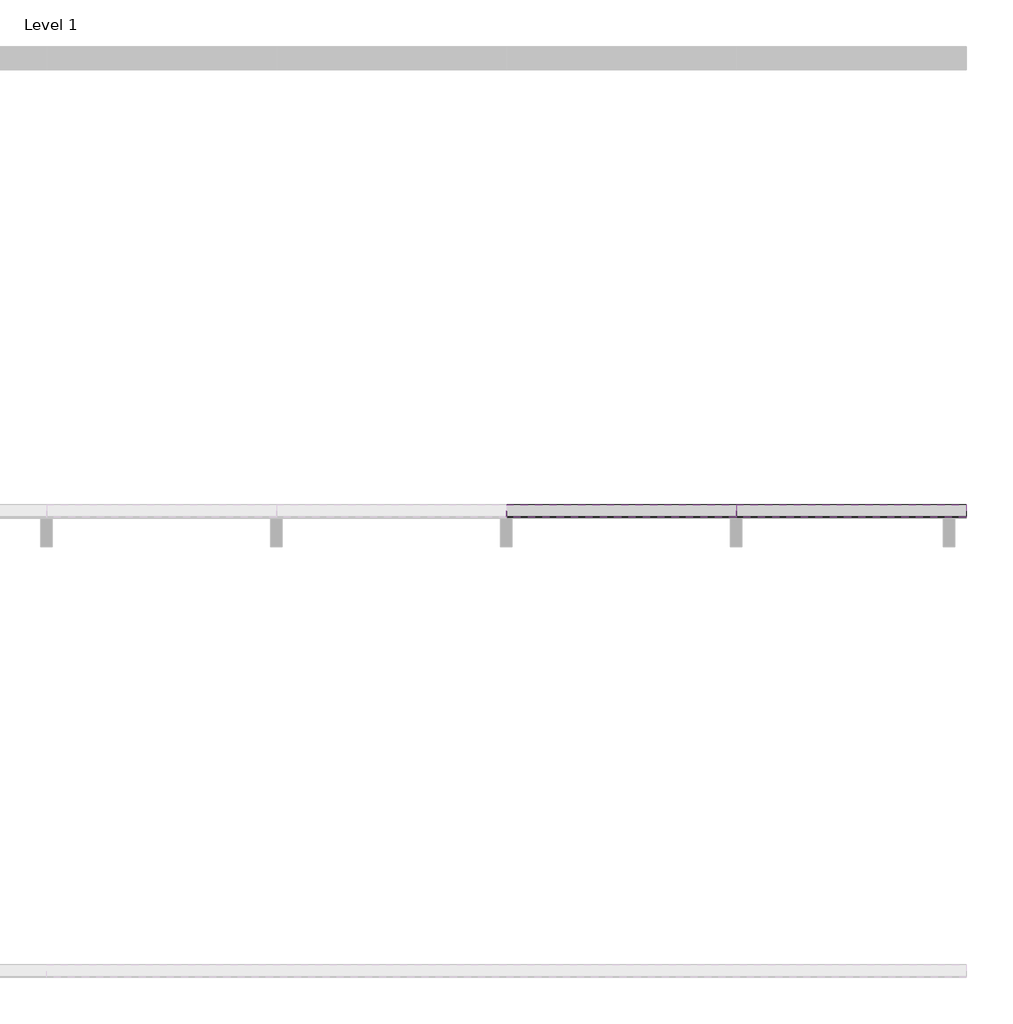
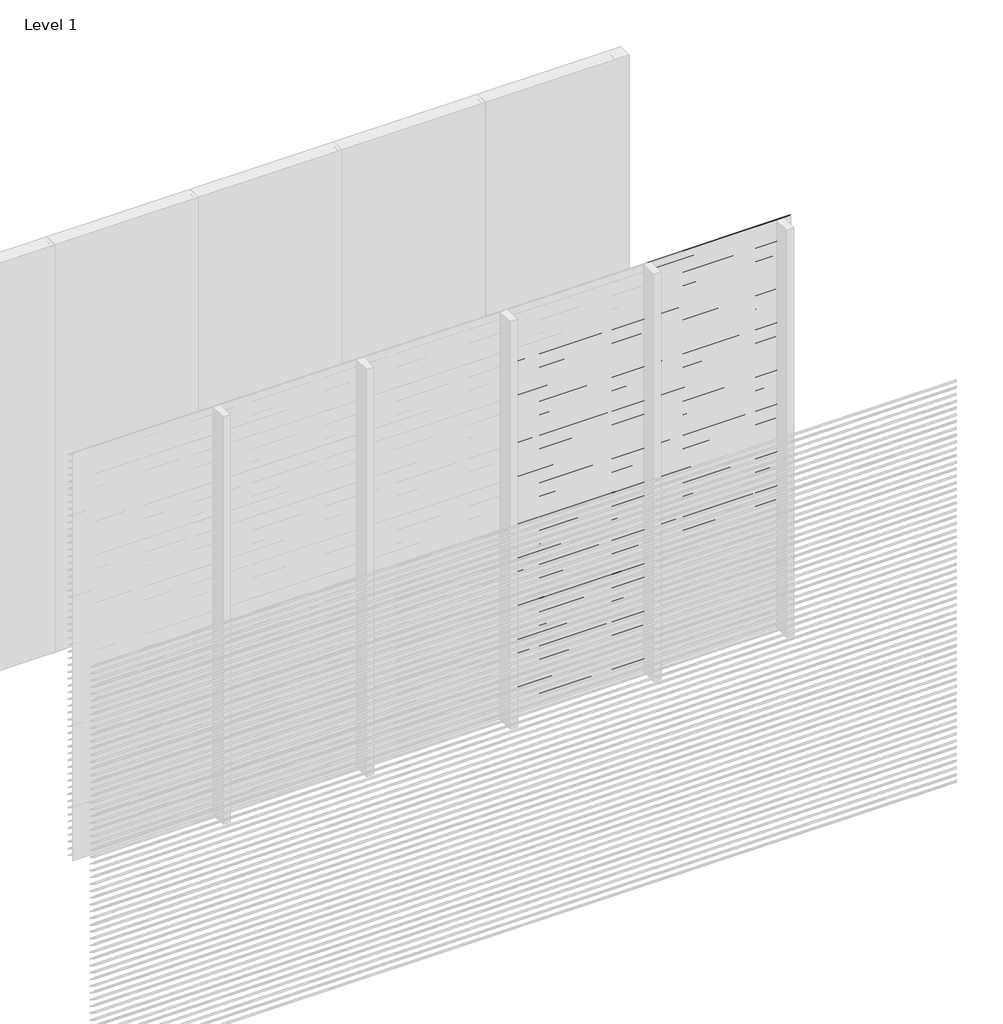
# One storey, part 5 of 18: 95 proxies.
"""IFC4 building model written with IfcOpenShell, lengths in millimetres."""

from ifc_helpers import new_model, si_unit, frame, origin, place, context, project, spatial, polyline, outline, extrude, element, save

model = new_model("IFC4")

# Units and contexts
model_context = context("Model", 3, world=origin())
ifc_project = project(units=[si_unit("LENGTHUNIT", "METRE", prefix="MILLI")], contexts=[model_context])

# Site, building, storey
site = spatial("IfcSite", under=ifc_project)
building = spatial("IfcBuilding", under=site)
storey = spatial("IfcBuildingStorey", under=building, Name="Level 1", Elevation=0.0)

# Proxies
placement = place(None, origin())
element("IfcBuildingElementProxy", 1, Name="Wall Sweeps", at=placement, inside=storey, context=model_context, shape_type="SweptSolid", body=[
    extrude(outline(polyline([(-17995.0, 3000.0), (-17995.0, 2991.0744429), (-17943.0, 2956.0), (-17943.0, 2950.0), (-17997.0, 2986.4234599), (-17997.0, 3000.0), (-17995.0, 3000.0)])), frame((4999.9999998, 0.0, 0.0), z_axis=(1.0, 0.0, 0.0), x_axis=(0.0, 1.0, 0.0)), (0.0, 0.0, 1.0), 1000.0000002),
])
element("IfcBuildingElementProxy", 2, Name="Wall Sweeps", at=placement, inside=storey, context=model_context, shape_type="SweptSolid", body=[
    extrude(outline(polyline([(-17995.0, 2950.0), (-17995.0, 2941.0744429), (-17943.0, 2906.0), (-17943.0, 2900.0), (-17997.0, 2936.4234599), (-17997.0, 2950.0), (-17995.0, 2950.0)])), frame((4999.9999998, 0.0, 0.0), z_axis=(1.0, 0.0, 0.0), x_axis=(0.0, 1.0, 0.0)), (0.0, 0.0, 1.0), 1000.0000002),
])
element("IfcBuildingElementProxy", 3, Name="Wall Sweeps", at=placement, inside=storey, context=model_context, shape_type="SweptSolid", body=[
    extrude(outline(polyline([(-17995.0, 2900.0), (-17995.0, 2891.0744429), (-17943.0, 2856.0), (-17943.0, 2850.0), (-17997.0, 2886.4234599), (-17997.0, 2900.0), (-17995.0, 2900.0)])), frame((4999.9999998, 0.0, 0.0), z_axis=(1.0, 0.0, 0.0), x_axis=(0.0, 1.0, 0.0)), (0.0, 0.0, 1.0), 1000.0000002),
])
element("IfcBuildingElementProxy", 4, Name="Wall Sweeps", at=placement, inside=storey, context=model_context, shape_type="SweptSolid", body=[
    extrude(outline(polyline([(-17995.0, 2850.0), (-17995.0, 2841.0744429), (-17943.0, 2806.0), (-17943.0, 2800.0), (-17997.0, 2836.4234599), (-17997.0, 2850.0), (-17995.0, 2850.0)])), frame((4999.9999998, 0.0, 0.0), z_axis=(1.0, 0.0, 0.0), x_axis=(0.0, 1.0, 0.0)), (0.0, 0.0, 1.0), 1000.0000002),
])
element("IfcBuildingElementProxy", 5, Name="Wall Sweeps", at=placement, inside=storey, context=model_context, shape_type="SweptSolid", body=[
    extrude(outline(polyline([(-17995.0, 2800.0), (-17995.0, 2791.0744429), (-17943.0, 2756.0), (-17943.0, 2750.0), (-17997.0, 2786.4234599), (-17997.0, 2800.0), (-17995.0, 2800.0)])), frame((4999.9999998, 0.0, 0.0), z_axis=(1.0, 0.0, 0.0), x_axis=(0.0, 1.0, 0.0)), (0.0, 0.0, 1.0), 1000.0000002),
])
element("IfcBuildingElementProxy", 6, Name="Wall Sweeps", at=placement, inside=storey, context=model_context, shape_type="SweptSolid", body=[
    extrude(outline(polyline([(-17995.0, 2750.0), (-17995.0, 2741.0744429), (-17943.0, 2706.0), (-17943.0, 2700.0), (-17997.0, 2736.4234599), (-17997.0, 2750.0), (-17995.0, 2750.0)])), frame((4999.9999998, 0.0, 0.0), z_axis=(1.0, 0.0, 0.0), x_axis=(0.0, 1.0, 0.0)), (0.0, 0.0, 1.0), 1000.0000002),
])
element("IfcBuildingElementProxy", 7, Name="Wall Sweeps", at=placement, inside=storey, context=model_context, shape_type="SweptSolid", body=[
    extrude(outline(polyline([(-17995.0, 2700.0), (-17995.0, 2691.0744429), (-17943.0, 2656.0), (-17943.0, 2650.0), (-17997.0, 2686.4234599), (-17997.0, 2700.0), (-17995.0, 2700.0)])), frame((4999.9999998, 0.0, 0.0), z_axis=(1.0, 0.0, 0.0), x_axis=(0.0, 1.0, 0.0)), (0.0, 0.0, 1.0), 1000.0000002),
])
element("IfcBuildingElementProxy", 8, Name="Wall Sweeps", at=placement, inside=storey, context=model_context, shape_type="SweptSolid", body=[
    extrude(outline(polyline([(-17995.0, 2650.0), (-17995.0, 2641.0744429), (-17943.0, 2606.0), (-17943.0, 2600.0), (-17997.0, 2636.4234599), (-17997.0, 2650.0), (-17995.0, 2650.0)])), frame((4999.9999998, 0.0, 0.0), z_axis=(1.0, 0.0, 0.0), x_axis=(0.0, 1.0, 0.0)), (0.0, 0.0, 1.0), 1000.0000002),
])
element("IfcBuildingElementProxy", 9, Name="Wall Sweeps", at=placement, inside=storey, context=model_context, shape_type="SweptSolid", body=[
    extrude(outline(polyline([(-17995.0, 2600.0), (-17995.0, 2591.0744429), (-17943.0, 2556.0), (-17943.0, 2550.0), (-17997.0, 2586.4234599), (-17997.0, 2600.0), (-17995.0, 2600.0)])), frame((4999.9999998, 0.0, 0.0), z_axis=(1.0, 0.0, 0.0), x_axis=(0.0, 1.0, 0.0)), (0.0, 0.0, 1.0), 1000.0000002),
])
element("IfcBuildingElementProxy", 10, Name="Wall Sweeps", at=placement, inside=storey, context=model_context, shape_type="SweptSolid", body=[
    extrude(outline(polyline([(-17995.0, 2550.0), (-17995.0, 2541.0744429), (-17943.0, 2506.0), (-17943.0, 2500.0), (-17997.0, 2536.4234599), (-17997.0, 2550.0), (-17995.0, 2550.0)])), frame((4999.9999998, 0.0, 0.0), z_axis=(1.0, 0.0, 0.0), x_axis=(0.0, 1.0, 0.0)), (0.0, 0.0, 1.0), 1000.0000002),
])
element("IfcBuildingElementProxy", 11, Name="Wall Sweeps", at=placement, inside=storey, context=model_context, shape_type="SweptSolid", body=[
    extrude(outline(polyline([(-17995.0, 2500.0), (-17995.0, 2491.0744429), (-17943.0, 2456.0), (-17943.0, 2450.0), (-17997.0, 2486.4234599), (-17997.0, 2500.0), (-17995.0, 2500.0)])), frame((4999.9999998, 0.0, 0.0), z_axis=(1.0, 0.0, 0.0), x_axis=(0.0, 1.0, 0.0)), (0.0, 0.0, 1.0), 1000.0000002),
])
element("IfcBuildingElementProxy", 12, Name="Wall Sweeps", at=placement, inside=storey, context=model_context, shape_type="SweptSolid", body=[
    extrude(outline(polyline([(-17995.0, 2450.0), (-17995.0, 2441.0744429), (-17943.0, 2406.0), (-17943.0, 2400.0), (-17997.0, 2436.4234599), (-17997.0, 2450.0), (-17995.0, 2450.0)])), frame((4999.9999998, 0.0, 0.0), z_axis=(1.0, 0.0, 0.0), x_axis=(0.0, 1.0, 0.0)), (0.0, 0.0, 1.0), 1000.0000002),
])
element("IfcBuildingElementProxy", 13, Name="Wall Sweeps", at=placement, inside=storey, context=model_context, shape_type="SweptSolid", body=[
    extrude(outline(polyline([(-17995.0, 2400.0), (-17995.0, 2391.0744429), (-17943.0, 2356.0), (-17943.0, 2350.0), (-17997.0, 2386.4234599), (-17997.0, 2400.0), (-17995.0, 2400.0)])), frame((4999.9999998, 0.0, 0.0), z_axis=(1.0, 0.0, 0.0), x_axis=(0.0, 1.0, 0.0)), (0.0, 0.0, 1.0), 1000.0000002),
])
element("IfcBuildingElementProxy", 14, Name="Wall Sweeps", at=placement, inside=storey, context=model_context, shape_type="SweptSolid", body=[
    extrude(outline(polyline([(-17995.0, 2350.0), (-17995.0, 2341.0744429), (-17943.0, 2306.0), (-17943.0, 2300.0), (-17997.0, 2336.4234599), (-17997.0, 2350.0), (-17995.0, 2350.0)])), frame((4999.9999998, 0.0, 0.0), z_axis=(1.0, 0.0, 0.0), x_axis=(0.0, 1.0, 0.0)), (0.0, 0.0, 1.0), 1000.0000002),
])
element("IfcBuildingElementProxy", 15, Name="Wall Sweeps", at=placement, inside=storey, context=model_context, shape_type="SweptSolid", body=[
    extrude(outline(polyline([(-17995.0, 2300.0), (-17995.0, 2291.0744429), (-17943.0, 2256.0), (-17943.0, 2250.0), (-17997.0, 2286.4234599), (-17997.0, 2300.0), (-17995.0, 2300.0)])), frame((4999.9999998, 0.0, 0.0), z_axis=(1.0, 0.0, 0.0), x_axis=(0.0, 1.0, 0.0)), (0.0, 0.0, 1.0), 1000.0000002),
])
element("IfcBuildingElementProxy", 16, Name="Wall Sweeps", at=placement, inside=storey, context=model_context, shape_type="SweptSolid", body=[
    extrude(outline(polyline([(-17995.0, 2250.0), (-17995.0, 2241.0744429), (-17943.0, 2206.0), (-17943.0, 2200.0), (-17997.0, 2236.4234599), (-17997.0, 2250.0), (-17995.0, 2250.0)])), frame((4999.9999998, 0.0, 0.0), z_axis=(1.0, 0.0, 0.0), x_axis=(0.0, 1.0, 0.0)), (0.0, 0.0, 1.0), 1000.0000002),
])
element("IfcBuildingElementProxy", 17, Name="Wall Sweeps", at=placement, inside=storey, context=model_context, shape_type="SweptSolid", body=[
    extrude(outline(polyline([(-17995.0, 2200.0), (-17995.0, 2191.0744429), (-17943.0, 2156.0), (-17943.0, 2150.0), (-17997.0, 2186.4234599), (-17997.0, 2200.0), (-17995.0, 2200.0)])), frame((4999.9999998, 0.0, 0.0), z_axis=(1.0, 0.0, 0.0), x_axis=(0.0, 1.0, 0.0)), (0.0, 0.0, 1.0), 1000.0000002),
])
element("IfcBuildingElementProxy", 18, Name="Wall Sweeps", at=placement, inside=storey, context=model_context, shape_type="SweptSolid", body=[
    extrude(outline(polyline([(-17995.0, 2150.0), (-17995.0, 2141.0744429), (-17943.0, 2106.0), (-17943.0, 2100.0), (-17997.0, 2136.4234599), (-17997.0, 2150.0), (-17995.0, 2150.0)])), frame((4999.9999998, 0.0, 0.0), z_axis=(1.0, 0.0, 0.0), x_axis=(0.0, 1.0, 0.0)), (0.0, 0.0, 1.0), 1000.0000002),
])
element("IfcBuildingElementProxy", 19, Name="Wall Sweeps", at=placement, inside=storey, context=model_context, shape_type="SweptSolid", body=[
    extrude(outline(polyline([(-17995.0, 2100.0), (-17995.0, 2091.0744429), (-17943.0, 2056.0), (-17943.0, 2050.0), (-17997.0, 2086.4234599), (-17997.0, 2100.0), (-17995.0, 2100.0)])), frame((4999.9999998, 0.0, 0.0), z_axis=(1.0, 0.0, 0.0), x_axis=(0.0, 1.0, 0.0)), (0.0, 0.0, 1.0), 1000.0000002),
])
element("IfcBuildingElementProxy", 20, Name="Wall Sweeps", at=placement, inside=storey, context=model_context, shape_type="SweptSolid", body=[
    extrude(outline(polyline([(-17995.0, 2050.0), (-17995.0, 2041.0744429), (-17943.0, 2006.0), (-17943.0, 2000.0), (-17997.0, 2036.4234599), (-17997.0, 2050.0), (-17995.0, 2050.0)])), frame((4999.9999998, 0.0, 0.0), z_axis=(1.0, 0.0, 0.0), x_axis=(0.0, 1.0, 0.0)), (0.0, 0.0, 1.0), 1000.0000002),
])
element("IfcBuildingElementProxy", 21, Name="Wall Sweeps", at=placement, inside=storey, context=model_context, shape_type="SweptSolid", body=[
    extrude(outline(polyline([(-17995.0, 2000.0), (-17995.0, 1991.0744429), (-17943.0, 1956.0), (-17943.0, 1950.0), (-17997.0, 1986.4234599), (-17997.0, 2000.0), (-17995.0, 2000.0)])), frame((4999.9999998, 0.0, 0.0), z_axis=(1.0, 0.0, 0.0), x_axis=(0.0, 1.0, 0.0)), (0.0, 0.0, 1.0), 1000.0000002),
])
element("IfcBuildingElementProxy", 22, Name="Wall Sweeps", at=placement, inside=storey, context=model_context, shape_type="SweptSolid", body=[
    extrude(outline(polyline([(-17995.0, 1950.0), (-17995.0, 1941.0744429), (-17943.0, 1906.0), (-17943.0, 1900.0), (-17997.0, 1936.4234599), (-17997.0, 1950.0), (-17995.0, 1950.0)])), frame((4999.9999998, 0.0, 0.0), z_axis=(1.0, 0.0, 0.0), x_axis=(0.0, 1.0, 0.0)), (0.0, 0.0, 1.0), 1000.0000002),
])
element("IfcBuildingElementProxy", 23, Name="Wall Sweeps", at=placement, inside=storey, context=model_context, shape_type="SweptSolid", body=[
    extrude(outline(polyline([(-17995.0, 1900.0), (-17995.0, 1891.0744429), (-17943.0, 1856.0), (-17943.0, 1850.0), (-17997.0, 1886.4234599), (-17997.0, 1900.0), (-17995.0, 1900.0)])), frame((4999.9999998, 0.0, 0.0), z_axis=(1.0, 0.0, 0.0), x_axis=(0.0, 1.0, 0.0)), (0.0, 0.0, 1.0), 1000.0000002),
])
element("IfcBuildingElementProxy", 24, Name="Wall Sweeps", at=placement, inside=storey, context=model_context, shape_type="SweptSolid", body=[
    extrude(outline(polyline([(-17995.0, 1850.0), (-17995.0, 1841.0744429), (-17943.0, 1806.0), (-17943.0, 1800.0), (-17997.0, 1836.4234599), (-17997.0, 1850.0), (-17995.0, 1850.0)])), frame((4999.9999998, 0.0, 0.0), z_axis=(1.0, 0.0, 0.0), x_axis=(0.0, 1.0, 0.0)), (0.0, 0.0, 1.0), 1000.0000002),
])
element("IfcBuildingElementProxy", 25, Name="Wall Sweeps", at=placement, inside=storey, context=model_context, shape_type="SweptSolid", body=[
    extrude(outline(polyline([(-17995.0, 1800.0), (-17995.0, 1791.0744429), (-17943.0, 1756.0), (-17943.0, 1750.0), (-17997.0, 1786.4234599), (-17997.0, 1800.0), (-17995.0, 1800.0)])), frame((4999.9999998, 0.0, 0.0), z_axis=(1.0, 0.0, 0.0), x_axis=(0.0, 1.0, 0.0)), (0.0, 0.0, 1.0), 1000.0000002),
])
element("IfcBuildingElementProxy", 26, Name="Wall Sweeps", at=placement, inside=storey, context=model_context, shape_type="SweptSolid", body=[
    extrude(outline(polyline([(-17995.0, 1750.0), (-17995.0, 1741.0744429), (-17943.0, 1706.0), (-17943.0, 1700.0), (-17997.0, 1736.4234599), (-17997.0, 1750.0), (-17995.0, 1750.0)])), frame((4999.9999998, 0.0, 0.0), z_axis=(1.0, 0.0, 0.0), x_axis=(0.0, 1.0, 0.0)), (0.0, 0.0, 1.0), 1000.0000002),
])
element("IfcBuildingElementProxy", 27, Name="Wall Sweeps", at=placement, inside=storey, context=model_context, shape_type="SweptSolid", body=[
    extrude(outline(polyline([(-17995.0, 1700.0), (-17995.0, 1691.0744429), (-17943.0, 1656.0), (-17943.0, 1650.0), (-17997.0, 1686.4234599), (-17997.0, 1700.0), (-17995.0, 1700.0)])), frame((4999.9999998, 0.0, 0.0), z_axis=(1.0, 0.0, 0.0), x_axis=(0.0, 1.0, 0.0)), (0.0, 0.0, 1.0), 1000.0000002),
])
element("IfcBuildingElementProxy", 28, Name="Wall Sweeps", at=placement, inside=storey, context=model_context, shape_type="SweptSolid", body=[
    extrude(outline(polyline([(-17995.0, 1650.0), (-17995.0, 1641.0744429), (-17943.0, 1606.0), (-17943.0, 1600.0), (-17997.0, 1636.4234599), (-17997.0, 1650.0), (-17995.0, 1650.0)])), frame((4999.9999998, 0.0, 0.0), z_axis=(1.0, 0.0, 0.0), x_axis=(0.0, 1.0, 0.0)), (0.0, 0.0, 1.0), 1000.0000002),
])
element("IfcBuildingElementProxy", 29, Name="Wall Sweeps", at=placement, inside=storey, context=model_context, shape_type="SweptSolid", body=[
    extrude(outline(polyline([(-17995.0, 1600.0), (-17995.0, 1591.0744429), (-17943.0, 1556.0), (-17943.0, 1550.0), (-17997.0, 1586.4234599), (-17997.0, 1600.0), (-17995.0, 1600.0)])), frame((4999.9999998, 0.0, 0.0), z_axis=(1.0, 0.0, 0.0), x_axis=(0.0, 1.0, 0.0)), (0.0, 0.0, 1.0), 1000.0000002),
])
element("IfcBuildingElementProxy", 30, Name="Wall Sweeps", at=placement, inside=storey, context=model_context, shape_type="SweptSolid", body=[
    extrude(outline(polyline([(-17995.0, 1550.0), (-17995.0, 1541.0744429), (-17943.0, 1506.0), (-17943.0, 1500.0), (-17997.0, 1536.4234599), (-17997.0, 1550.0), (-17995.0, 1550.0)])), frame((4999.9999998, 0.0, 0.0), z_axis=(1.0, 0.0, 0.0), x_axis=(0.0, 1.0, 0.0)), (0.0, 0.0, 1.0), 1000.0000002),
])
element("IfcBuildingElementProxy", 31, Name="Wall Sweeps", at=placement, inside=storey, context=model_context, shape_type="SweptSolid", body=[
    extrude(outline(polyline([(-17995.0, 1500.0), (-17995.0, 1491.0744429), (-17943.0, 1456.0), (-17943.0, 1450.0), (-17997.0, 1486.4234599), (-17997.0, 1500.0), (-17995.0, 1500.0)])), frame((4999.9999998, 0.0, 0.0), z_axis=(1.0, 0.0, 0.0), x_axis=(0.0, 1.0, 0.0)), (0.0, 0.0, 1.0), 1000.0000002),
])
element("IfcBuildingElementProxy", 32, Name="Wall Sweeps", at=placement, inside=storey, context=model_context, shape_type="SweptSolid", body=[
    extrude(outline(polyline([(-17995.0, 1450.0), (-17995.0, 1441.0744429), (-17943.0, 1406.0), (-17943.0, 1400.0), (-17997.0, 1436.4234599), (-17997.0, 1450.0), (-17995.0, 1450.0)])), frame((4999.9999998, 0.0, 0.0), z_axis=(1.0, 0.0, 0.0), x_axis=(0.0, 1.0, 0.0)), (0.0, 0.0, 1.0), 1000.0000002),
])
element("IfcBuildingElementProxy", 33, Name="Wall Sweeps", at=placement, inside=storey, context=model_context, shape_type="SweptSolid", body=[
    extrude(outline(polyline([(-17995.0, 1400.0), (-17995.0, 1391.0744429), (-17943.0, 1356.0), (-17943.0, 1350.0), (-17997.0, 1386.4234599), (-17997.0, 1400.0), (-17995.0, 1400.0)])), frame((4999.9999998, 0.0, 0.0), z_axis=(1.0, 0.0, 0.0), x_axis=(0.0, 1.0, 0.0)), (0.0, 0.0, 1.0), 1000.0000002),
])
element("IfcBuildingElementProxy", 34, Name="Wall Sweeps", at=placement, inside=storey, context=model_context, shape_type="SweptSolid", body=[
    extrude(outline(polyline([(-17995.0, 1350.0), (-17995.0, 1341.0744429), (-17943.0, 1306.0), (-17943.0, 1300.0), (-17997.0, 1336.4234599), (-17997.0, 1350.0), (-17995.0, 1350.0)])), frame((4999.9999998, 0.0, 0.0), z_axis=(1.0, 0.0, 0.0), x_axis=(0.0, 1.0, 0.0)), (0.0, 0.0, 1.0), 1000.0000002),
])
element("IfcBuildingElementProxy", 35, Name="Wall Sweeps", at=placement, inside=storey, context=model_context, shape_type="SweptSolid", body=[
    extrude(outline(polyline([(-17995.0, 1300.0), (-17995.0, 1291.0744429), (-17943.0, 1256.0), (-17943.0, 1250.0), (-17997.0, 1286.4234599), (-17997.0, 1300.0), (-17995.0, 1300.0)])), frame((4999.9999998, 0.0, 0.0), z_axis=(1.0, 0.0, 0.0), x_axis=(0.0, 1.0, 0.0)), (0.0, 0.0, 1.0), 1000.0000002),
])
element("IfcBuildingElementProxy", 36, Name="Wall Sweeps", at=placement, inside=storey, context=model_context, shape_type="SweptSolid", body=[
    extrude(outline(polyline([(-17995.0, 1250.0), (-17995.0, 1241.0744429), (-17943.0, 1206.0), (-17943.0, 1200.0), (-17997.0, 1236.4234599), (-17997.0, 1250.0), (-17995.0, 1250.0)])), frame((4999.9999998, 0.0, 0.0), z_axis=(1.0, 0.0, 0.0), x_axis=(0.0, 1.0, 0.0)), (0.0, 0.0, 1.0), 1000.0000002),
])
element("IfcBuildingElementProxy", 37, Name="Wall Sweeps", at=placement, inside=storey, context=model_context, shape_type="SweptSolid", body=[
    extrude(outline(polyline([(-17995.0, 1200.0), (-17995.0, 1191.0744429), (-17943.0, 1156.0), (-17943.0, 1150.0), (-17997.0, 1186.4234599), (-17997.0, 1200.0), (-17995.0, 1200.0)])), frame((4999.9999998, 0.0, 0.0), z_axis=(1.0, 0.0, 0.0), x_axis=(0.0, 1.0, 0.0)), (0.0, 0.0, 1.0), 1000.0000002),
])
element("IfcBuildingElementProxy", 38, Name="Wall Sweeps", at=placement, inside=storey, context=model_context, shape_type="SweptSolid", body=[
    extrude(outline(polyline([(-17995.0, 1150.0), (-17995.0, 1141.0744429), (-17943.0, 1106.0), (-17943.0, 1100.0), (-17997.0, 1136.4234599), (-17997.0, 1150.0), (-17995.0, 1150.0)])), frame((4999.9999998, 0.0, 0.0), z_axis=(1.0, 0.0, 0.0), x_axis=(0.0, 1.0, 0.0)), (0.0, 0.0, 1.0), 1000.0000002),
])
element("IfcBuildingElementProxy", 39, Name="Wall Sweeps", at=placement, inside=storey, context=model_context, shape_type="SweptSolid", body=[
    extrude(outline(polyline([(-17995.0, 1100.0), (-17995.0, 1091.0744429), (-17943.0, 1056.0), (-17943.0, 1050.0), (-17997.0, 1086.4234599), (-17997.0, 1100.0), (-17995.0, 1100.0)])), frame((4999.9999998, 0.0, 0.0), z_axis=(1.0, 0.0, 0.0), x_axis=(0.0, 1.0, 0.0)), (0.0, 0.0, 1.0), 1000.0000002),
])
element("IfcBuildingElementProxy", 40, Name="Wall Sweeps", at=placement, inside=storey, context=model_context, shape_type="SweptSolid", body=[
    extrude(outline(polyline([(-17995.0, 1050.0), (-17995.0, 1041.0744429), (-17943.0, 1006.0), (-17943.0, 1000.0), (-17997.0, 1036.4234599), (-17997.0, 1050.0), (-17995.0, 1050.0)])), frame((4999.9999998, 0.0, 0.0), z_axis=(1.0, 0.0, 0.0), x_axis=(0.0, 1.0, 0.0)), (0.0, 0.0, 1.0), 1000.0000002),
])
element("IfcBuildingElementProxy", 41, Name="Wall Sweeps", at=placement, inside=storey, context=model_context, shape_type="SweptSolid", body=[
    extrude(outline(polyline([(-17995.0, 1000.0), (-17995.0, 991.0744429), (-17943.0, 956.0), (-17943.0, 950.0), (-17997.0, 986.4234599), (-17997.0, 1000.0), (-17995.0, 1000.0)])), frame((4999.9999998, 0.0, 0.0), z_axis=(1.0, 0.0, 0.0), x_axis=(0.0, 1.0, 0.0)), (0.0, 0.0, 1.0), 1000.0000002),
])
element("IfcBuildingElementProxy", 42, Name="Wall Sweeps", at=placement, inside=storey, context=model_context, shape_type="SweptSolid", body=[
    extrude(outline(polyline([(-17995.0, 950.0), (-17995.0, 941.0744429), (-17943.0, 906.0), (-17943.0, 900.0), (-17997.0, 936.4234599), (-17997.0, 950.0), (-17995.0, 950.0)])), frame((4999.9999998, 0.0, 0.0), z_axis=(1.0, 0.0, 0.0), x_axis=(0.0, 1.0, 0.0)), (0.0, 0.0, 1.0), 1000.0000002),
])
element("IfcBuildingElementProxy", 43, Name="Wall Sweeps", at=placement, inside=storey, context=model_context, shape_type="SweptSolid", body=[
    extrude(outline(polyline([(-17995.0, 2650.0), (-17995.0, 2641.0744429), (-17943.0, 2606.0), (-17943.0, 2600.0), (-17997.0, 2636.4234599), (-17997.0, 2650.0), (-17995.0, 2650.0)])), frame((3999.9999999, 0.0, 0.0), z_axis=(1.0, 0.0, 0.0), x_axis=(0.0, 1.0, 0.0)), (0.0, 0.0, 1.0), 999.9999999),
])
element("IfcBuildingElementProxy", 44, Name="Wall Sweeps", at=placement, inside=storey, context=model_context, shape_type="SweptSolid", body=[
    extrude(outline(polyline([(-17995.0, 2600.0), (-17995.0, 2591.0744429), (-17943.0, 2556.0), (-17943.0, 2550.0), (-17997.0, 2586.4234599), (-17997.0, 2600.0), (-17995.0, 2600.0)])), frame((3999.9999999, 0.0, 0.0), z_axis=(1.0, 0.0, 0.0), x_axis=(0.0, 1.0, 0.0)), (0.0, 0.0, 1.0), 999.9999999),
])
element("IfcBuildingElementProxy", 45, Name="Wall Sweeps", at=placement, inside=storey, context=model_context, shape_type="SweptSolid", body=[
    extrude(outline(polyline([(-17995.0, 2550.0), (-17995.0, 2541.0744429), (-17943.0, 2506.0), (-17943.0, 2500.0), (-17997.0, 2536.4234599), (-17997.0, 2550.0), (-17995.0, 2550.0)])), frame((3999.9999999, 0.0, 0.0), z_axis=(1.0, 0.0, 0.0), x_axis=(0.0, 1.0, 0.0)), (0.0, 0.0, 1.0), 999.9999999),
])
element("IfcBuildingElementProxy", 46, Name="Wall Sweeps", at=placement, inside=storey, context=model_context, shape_type="SweptSolid", body=[
    extrude(outline(polyline([(-17995.0, 2500.0), (-17995.0, 2491.0744429), (-17943.0, 2456.0), (-17943.0, 2450.0), (-17997.0, 2486.4234599), (-17997.0, 2500.0), (-17995.0, 2500.0)])), frame((3999.9999999, 0.0, 0.0), z_axis=(1.0, 0.0, 0.0), x_axis=(0.0, 1.0, 0.0)), (0.0, 0.0, 1.0), 999.9999999),
])
element("IfcBuildingElementProxy", 47, Name="Wall Sweeps", at=placement, inside=storey, context=model_context, shape_type="SweptSolid", body=[
    extrude(outline(polyline([(-17995.0, 2450.0), (-17995.0, 2441.0744429), (-17943.0, 2406.0), (-17943.0, 2400.0), (-17997.0, 2436.4234599), (-17997.0, 2450.0), (-17995.0, 2450.0)])), frame((3999.9999999, 0.0, 0.0), z_axis=(1.0, 0.0, 0.0), x_axis=(0.0, 1.0, 0.0)), (0.0, 0.0, 1.0), 999.9999999),
])
element("IfcBuildingElementProxy", 48, Name="Wall Sweeps", at=placement, inside=storey, context=model_context, shape_type="SweptSolid", body=[
    extrude(outline(polyline([(-17995.0, 2400.0), (-17995.0, 2391.0744429), (-17943.0, 2356.0), (-17943.0, 2350.0), (-17997.0, 2386.4234599), (-17997.0, 2400.0), (-17995.0, 2400.0)])), frame((3999.9999999, 0.0, 0.0), z_axis=(1.0, 0.0, 0.0), x_axis=(0.0, 1.0, 0.0)), (0.0, 0.0, 1.0), 999.9999999),
])
element("IfcBuildingElementProxy", 49, Name="Wall Sweeps", at=placement, inside=storey, context=model_context, shape_type="SweptSolid", body=[
    extrude(outline(polyline([(-17995.0, 2350.0), (-17995.0, 2341.0744429), (-17943.0, 2306.0), (-17943.0, 2300.0), (-17997.0, 2336.4234599), (-17997.0, 2350.0), (-17995.0, 2350.0)])), frame((3999.9999999, 0.0, 0.0), z_axis=(1.0, 0.0, 0.0), x_axis=(0.0, 1.0, 0.0)), (0.0, 0.0, 1.0), 999.9999999),
])
element("IfcBuildingElementProxy", 50, Name="Wall Sweeps", at=placement, inside=storey, context=model_context, shape_type="SweptSolid", body=[
    extrude(outline(polyline([(-17995.0, 2300.0), (-17995.0, 2291.0744429), (-17943.0, 2256.0), (-17943.0, 2250.0), (-17997.0, 2286.4234599), (-17997.0, 2300.0), (-17995.0, 2300.0)])), frame((3999.9999999, 0.0, 0.0), z_axis=(1.0, 0.0, 0.0), x_axis=(0.0, 1.0, 0.0)), (0.0, 0.0, 1.0), 999.9999999),
])
element("IfcBuildingElementProxy", 51, Name="Wall Sweeps", at=placement, inside=storey, context=model_context, shape_type="SweptSolid", body=[
    extrude(outline(polyline([(-17995.0, 2250.0), (-17995.0, 2241.0744429), (-17943.0, 2206.0), (-17943.0, 2200.0), (-17997.0, 2236.4234599), (-17997.0, 2250.0), (-17995.0, 2250.0)])), frame((3999.9999999, 0.0, 0.0), z_axis=(1.0, 0.0, 0.0), x_axis=(0.0, 1.0, 0.0)), (0.0, 0.0, 1.0), 999.9999999),
])
element("IfcBuildingElementProxy", 52, Name="Wall Sweeps", at=placement, inside=storey, context=model_context, shape_type="SweptSolid", body=[
    extrude(outline(polyline([(-17995.0, 2200.0), (-17995.0, 2191.0744429), (-17943.0, 2156.0), (-17943.0, 2150.0), (-17997.0, 2186.4234599), (-17997.0, 2200.0), (-17995.0, 2200.0)])), frame((3999.9999999, 0.0, 0.0), z_axis=(1.0, 0.0, 0.0), x_axis=(0.0, 1.0, 0.0)), (0.0, 0.0, 1.0), 999.9999999),
])
element("IfcBuildingElementProxy", 53, Name="Wall Sweeps", at=placement, inside=storey, context=model_context, shape_type="SweptSolid", body=[
    extrude(outline(polyline([(-17995.0, 2150.0), (-17995.0, 2141.0744429), (-17943.0, 2106.0), (-17943.0, 2100.0), (-17997.0, 2136.4234599), (-17997.0, 2150.0), (-17995.0, 2150.0)])), frame((3999.9999999, 0.0, 0.0), z_axis=(1.0, 0.0, 0.0), x_axis=(0.0, 1.0, 0.0)), (0.0, 0.0, 1.0), 999.9999999),
])
element("IfcBuildingElementProxy", 54, Name="Wall Sweeps", at=placement, inside=storey, context=model_context, shape_type="SweptSolid", body=[
    extrude(outline(polyline([(-17995.0, 2100.0), (-17995.0, 2091.0744429), (-17943.0, 2056.0), (-17943.0, 2050.0), (-17997.0, 2086.4234599), (-17997.0, 2100.0), (-17995.0, 2100.0)])), frame((3999.9999999, 0.0, 0.0), z_axis=(1.0, 0.0, 0.0), x_axis=(0.0, 1.0, 0.0)), (0.0, 0.0, 1.0), 999.9999999),
])
element("IfcBuildingElementProxy", 55, Name="Wall Sweeps", at=placement, inside=storey, context=model_context, shape_type="SweptSolid", body=[
    extrude(outline(polyline([(-17995.0, 2050.0), (-17995.0, 2041.0744429), (-17943.0, 2006.0), (-17943.0, 2000.0), (-17997.0, 2036.4234599), (-17997.0, 2050.0), (-17995.0, 2050.0)])), frame((3999.9999999, 0.0, 0.0), z_axis=(1.0, 0.0, 0.0), x_axis=(0.0, 1.0, 0.0)), (0.0, 0.0, 1.0), 999.9999999),
])
element("IfcBuildingElementProxy", 56, Name="Wall Sweeps", at=placement, inside=storey, context=model_context, shape_type="SweptSolid", body=[
    extrude(outline(polyline([(-17995.0, 2000.0), (-17995.0, 1991.0744429), (-17943.0, 1956.0), (-17943.0, 1950.0), (-17997.0, 1986.4234599), (-17997.0, 2000.0), (-17995.0, 2000.0)])), frame((3999.9999999, 0.0, 0.0), z_axis=(1.0, 0.0, 0.0), x_axis=(0.0, 1.0, 0.0)), (0.0, 0.0, 1.0), 999.9999999),
])
element("IfcBuildingElementProxy", 57, Name="Wall Sweeps", at=placement, inside=storey, context=model_context, shape_type="SweptSolid", body=[
    extrude(outline(polyline([(-17995.0, 1950.0), (-17995.0, 1941.0744429), (-17943.0, 1906.0), (-17943.0, 1900.0), (-17997.0, 1936.4234599), (-17997.0, 1950.0), (-17995.0, 1950.0)])), frame((3999.9999999, 0.0, 0.0), z_axis=(1.0, 0.0, 0.0), x_axis=(0.0, 1.0, 0.0)), (0.0, 0.0, 1.0), 999.9999999),
])
element("IfcBuildingElementProxy", 58, Name="Wall Sweeps", at=placement, inside=storey, context=model_context, shape_type="SweptSolid", body=[
    extrude(outline(polyline([(-17995.0, 1900.0), (-17995.0, 1891.0744429), (-17943.0, 1856.0), (-17943.0, 1850.0), (-17997.0, 1886.4234599), (-17997.0, 1900.0), (-17995.0, 1900.0)])), frame((3999.9999999, 0.0, 0.0), z_axis=(1.0, 0.0, 0.0), x_axis=(0.0, 1.0, 0.0)), (0.0, 0.0, 1.0), 999.9999999),
])
element("IfcBuildingElementProxy", 59, Name="Wall Sweeps", at=placement, inside=storey, context=model_context, shape_type="SweptSolid", body=[
    extrude(outline(polyline([(-17995.0, 1850.0), (-17995.0, 1841.0744429), (-17943.0, 1806.0), (-17943.0, 1800.0), (-17997.0, 1836.4234599), (-17997.0, 1850.0), (-17995.0, 1850.0)])), frame((3999.9999999, 0.0, 0.0), z_axis=(1.0, 0.0, 0.0), x_axis=(0.0, 1.0, 0.0)), (0.0, 0.0, 1.0), 999.9999999),
])
element("IfcBuildingElementProxy", 60, Name="Wall Sweeps", at=placement, inside=storey, context=model_context, shape_type="SweptSolid", body=[
    extrude(outline(polyline([(-17995.0, 1800.0), (-17995.0, 1791.0744429), (-17943.0, 1756.0), (-17943.0, 1750.0), (-17997.0, 1786.4234599), (-17997.0, 1800.0), (-17995.0, 1800.0)])), frame((3999.9999999, 0.0, 0.0), z_axis=(1.0, 0.0, 0.0), x_axis=(0.0, 1.0, 0.0)), (0.0, 0.0, 1.0), 999.9999999),
])
element("IfcBuildingElementProxy", 61, Name="Wall Sweeps", at=placement, inside=storey, context=model_context, shape_type="SweptSolid", body=[
    extrude(outline(polyline([(-17995.0, 1750.0), (-17995.0, 1741.0744429), (-17943.0, 1706.0), (-17943.0, 1700.0), (-17997.0, 1736.4234599), (-17997.0, 1750.0), (-17995.0, 1750.0)])), frame((3999.9999999, 0.0, 0.0), z_axis=(1.0, 0.0, 0.0), x_axis=(0.0, 1.0, 0.0)), (0.0, 0.0, 1.0), 999.9999999),
])
element("IfcBuildingElementProxy", 62, Name="Wall Sweeps", at=placement, inside=storey, context=model_context, shape_type="SweptSolid", body=[
    extrude(outline(polyline([(-17995.0, 1700.0), (-17995.0, 1691.0744429), (-17943.0, 1656.0), (-17943.0, 1650.0), (-17997.0, 1686.4234599), (-17997.0, 1700.0), (-17995.0, 1700.0)])), frame((3999.9999999, 0.0, 0.0), z_axis=(1.0, 0.0, 0.0), x_axis=(0.0, 1.0, 0.0)), (0.0, 0.0, 1.0), 999.9999999),
])
element("IfcBuildingElementProxy", 63, Name="Wall Sweeps", at=placement, inside=storey, context=model_context, shape_type="SweptSolid", body=[
    extrude(outline(polyline([(-17995.0, 1650.0), (-17995.0, 1641.0744429), (-17943.0, 1606.0), (-17943.0, 1600.0), (-17997.0, 1636.4234599), (-17997.0, 1650.0), (-17995.0, 1650.0)])), frame((3999.9999999, 0.0, 0.0), z_axis=(1.0, 0.0, 0.0), x_axis=(0.0, 1.0, 0.0)), (0.0, 0.0, 1.0), 999.9999999),
])
element("IfcBuildingElementProxy", 64, Name="Wall Sweeps", at=placement, inside=storey, context=model_context, shape_type="SweptSolid", body=[
    extrude(outline(polyline([(-17995.0, 1600.0), (-17995.0, 1591.0744429), (-17943.0, 1556.0), (-17943.0, 1550.0), (-17997.0, 1586.4234599), (-17997.0, 1600.0), (-17995.0, 1600.0)])), frame((3999.9999999, 0.0, 0.0), z_axis=(1.0, 0.0, 0.0), x_axis=(0.0, 1.0, 0.0)), (0.0, 0.0, 1.0), 999.9999999),
])
element("IfcBuildingElementProxy", 65, Name="Wall Sweeps", at=placement, inside=storey, context=model_context, shape_type="SweptSolid", body=[
    extrude(outline(polyline([(-17995.0, 1550.0), (-17995.0, 1541.0744429), (-17943.0, 1506.0), (-17943.0, 1500.0), (-17997.0, 1536.4234599), (-17997.0, 1550.0), (-17995.0, 1550.0)])), frame((3999.9999999, 0.0, 0.0), z_axis=(1.0, 0.0, 0.0), x_axis=(0.0, 1.0, 0.0)), (0.0, 0.0, 1.0), 999.9999999),
])
element("IfcBuildingElementProxy", 66, Name="Wall Sweeps", at=placement, inside=storey, context=model_context, shape_type="SweptSolid", body=[
    extrude(outline(polyline([(-17995.0, 1500.0), (-17995.0, 1491.0744429), (-17943.0, 1456.0), (-17943.0, 1450.0), (-17997.0, 1486.4234599), (-17997.0, 1500.0), (-17995.0, 1500.0)])), frame((3999.9999999, 0.0, 0.0), z_axis=(1.0, 0.0, 0.0), x_axis=(0.0, 1.0, 0.0)), (0.0, 0.0, 1.0), 999.9999999),
])
element("IfcBuildingElementProxy", 67, Name="Wall Sweeps", at=placement, inside=storey, context=model_context, shape_type="SweptSolid", body=[
    extrude(outline(polyline([(-17995.0, 1450.0), (-17995.0, 1441.0744429), (-17943.0, 1406.0), (-17943.0, 1400.0), (-17997.0, 1436.4234599), (-17997.0, 1450.0), (-17995.0, 1450.0)])), frame((3999.9999999, 0.0, 0.0), z_axis=(1.0, 0.0, 0.0), x_axis=(0.0, 1.0, 0.0)), (0.0, 0.0, 1.0), 999.9999999),
])
element("IfcBuildingElementProxy", 68, Name="Wall Sweeps", at=placement, inside=storey, context=model_context, shape_type="SweptSolid", body=[
    extrude(outline(polyline([(-17995.0, 1400.0), (-17995.0, 1391.0744429), (-17943.0, 1356.0), (-17943.0, 1350.0), (-17997.0, 1386.4234599), (-17997.0, 1400.0), (-17995.0, 1400.0)])), frame((3999.9999999, 0.0, 0.0), z_axis=(1.0, 0.0, 0.0), x_axis=(0.0, 1.0, 0.0)), (0.0, 0.0, 1.0), 999.9999999),
])
element("IfcBuildingElementProxy", 69, Name="Wall Sweeps", at=placement, inside=storey, context=model_context, shape_type="SweptSolid", body=[
    extrude(outline(polyline([(-17995.0, 1350.0), (-17995.0, 1341.0744429), (-17943.0, 1306.0), (-17943.0, 1300.0), (-17997.0, 1336.4234599), (-17997.0, 1350.0), (-17995.0, 1350.0)])), frame((3999.9999999, 0.0, 0.0), z_axis=(1.0, 0.0, 0.0), x_axis=(0.0, 1.0, 0.0)), (0.0, 0.0, 1.0), 999.9999999),
])
element("IfcBuildingElementProxy", 70, Name="Wall Sweeps", at=placement, inside=storey, context=model_context, shape_type="SweptSolid", body=[
    extrude(outline(polyline([(-17995.0, 1300.0), (-17995.0, 1291.0744429), (-17943.0, 1256.0), (-17943.0, 1250.0), (-17997.0, 1286.4234599), (-17997.0, 1300.0), (-17995.0, 1300.0)])), frame((3999.9999999, 0.0, 0.0), z_axis=(1.0, 0.0, 0.0), x_axis=(0.0, 1.0, 0.0)), (0.0, 0.0, 1.0), 999.9999999),
])
element("IfcBuildingElementProxy", 71, Name="Wall Sweeps", at=placement, inside=storey, context=model_context, shape_type="SweptSolid", body=[
    extrude(outline(polyline([(-17995.0, 1250.0), (-17995.0, 1241.0744429), (-17943.0, 1206.0), (-17943.0, 1200.0), (-17997.0, 1236.4234599), (-17997.0, 1250.0), (-17995.0, 1250.0)])), frame((3999.9999999, 0.0, 0.0), z_axis=(1.0, 0.0, 0.0), x_axis=(0.0, 1.0, 0.0)), (0.0, 0.0, 1.0), 999.9999999),
])
element("IfcBuildingElementProxy", 72, Name="Wall Sweeps", at=placement, inside=storey, context=model_context, shape_type="SweptSolid", body=[
    extrude(outline(polyline([(-17995.0, 1200.0), (-17995.0, 1191.0744429), (-17943.0, 1156.0), (-17943.0, 1150.0), (-17997.0, 1186.4234599), (-17997.0, 1200.0), (-17995.0, 1200.0)])), frame((3999.9999999, 0.0, 0.0), z_axis=(1.0, 0.0, 0.0), x_axis=(0.0, 1.0, 0.0)), (0.0, 0.0, 1.0), 999.9999999),
])
element("IfcBuildingElementProxy", 73, Name="Wall Sweeps", at=placement, inside=storey, context=model_context, shape_type="SweptSolid", body=[
    extrude(outline(polyline([(-17995.0, 1150.0), (-17995.0, 1141.0744429), (-17943.0, 1106.0), (-17943.0, 1100.0), (-17997.0, 1136.4234599), (-17997.0, 1150.0), (-17995.0, 1150.0)])), frame((3999.9999999, 0.0, 0.0), z_axis=(1.0, 0.0, 0.0), x_axis=(0.0, 1.0, 0.0)), (0.0, 0.0, 1.0), 999.9999999),
])
element("IfcBuildingElementProxy", 74, Name="Wall Sweeps", at=placement, inside=storey, context=model_context, shape_type="SweptSolid", body=[
    extrude(outline(polyline([(-17995.0, 1100.0), (-17995.0, 1091.0744429), (-17943.0, 1056.0), (-17943.0, 1050.0), (-17997.0, 1086.4234599), (-17997.0, 1100.0), (-17995.0, 1100.0)])), frame((3999.9999999, 0.0, 0.0), z_axis=(1.0, 0.0, 0.0), x_axis=(0.0, 1.0, 0.0)), (0.0, 0.0, 1.0), 999.9999999),
])
element("IfcBuildingElementProxy", 75, Name="Wall Sweeps", at=placement, inside=storey, context=model_context, shape_type="SweptSolid", body=[
    extrude(outline(polyline([(-17995.0, 1050.0), (-17995.0, 1041.0744429), (-17943.0, 1006.0), (-17943.0, 1000.0), (-17997.0, 1036.4234599), (-17997.0, 1050.0), (-17995.0, 1050.0)])), frame((3999.9999999, 0.0, 0.0), z_axis=(1.0, 0.0, 0.0), x_axis=(0.0, 1.0, 0.0)), (0.0, 0.0, 1.0), 999.9999999),
])
element("IfcBuildingElementProxy", 76, Name="Wall Sweeps", at=placement, inside=storey, context=model_context, shape_type="SweptSolid", body=[
    extrude(outline(polyline([(-17995.0, 1000.0), (-17995.0, 991.0744429), (-17943.0, 956.0), (-17943.0, 950.0), (-17997.0, 986.4234599), (-17997.0, 1000.0), (-17995.0, 1000.0)])), frame((3999.9999999, 0.0, 0.0), z_axis=(1.0, 0.0, 0.0), x_axis=(0.0, 1.0, 0.0)), (0.0, 0.0, 1.0), 999.9999999),
])
element("IfcBuildingElementProxy", 77, Name="Wall Sweeps", at=placement, inside=storey, context=model_context, shape_type="SweptSolid", body=[
    extrude(outline(polyline([(-17995.0, 950.0), (-17995.0, 941.0744429), (-17943.0, 906.0), (-17943.0, 900.0), (-17997.0, 936.4234599), (-17997.0, 950.0), (-17995.0, 950.0)])), frame((3999.9999999, 0.0, 0.0), z_axis=(1.0, 0.0, 0.0), x_axis=(0.0, 1.0, 0.0)), (0.0, 0.0, 1.0), 999.9999999),
])
element("IfcBuildingElementProxy", 78, Name="Wall Sweeps", at=placement, inside=storey, context=model_context, shape_type="SweptSolid", body=[
    extrude(outline(polyline([(-17995.0, 900.0), (-17995.0, 891.0744429), (-17943.0, 856.0), (-17943.0, 850.0), (-17997.0, 886.4234599), (-17997.0, 900.0), (-17995.0, 900.0)])), frame((3999.9999999, 0.0, 0.0), z_axis=(1.0, 0.0, 0.0), x_axis=(0.0, 1.0, 0.0)), (0.0, 0.0, 1.0), 999.9999999),
])
element("IfcBuildingElementProxy", 79, Name="Wall Sweeps", at=placement, inside=storey, context=model_context, shape_type="SweptSolid", body=[
    extrude(outline(polyline([(-17995.0, 850.0), (-17995.0, 841.0744429), (-17943.0, 806.0), (-17943.0, 800.0), (-17997.0, 836.4234599), (-17997.0, 850.0), (-17995.0, 850.0)])), frame((3999.9999999, 0.0, 0.0), z_axis=(1.0, 0.0, 0.0), x_axis=(0.0, 1.0, 0.0)), (0.0, 0.0, 1.0), 999.9999999),
])
element("IfcBuildingElementProxy", 80, Name="Wall Sweeps", at=placement, inside=storey, context=model_context, shape_type="SweptSolid", body=[
    extrude(outline(polyline([(-17995.0, 800.0), (-17995.0, 791.0744429), (-17943.0, 756.0), (-17943.0, 750.0), (-17997.0, 786.4234599), (-17997.0, 800.0), (-17995.0, 800.0)])), frame((3999.9999999, 0.0, 0.0), z_axis=(1.0, 0.0, 0.0), x_axis=(0.0, 1.0, 0.0)), (0.0, 0.0, 1.0), 999.9999999),
])
element("IfcBuildingElementProxy", 81, Name="Wall Sweeps", at=placement, inside=storey, context=model_context, shape_type="SweptSolid", body=[
    extrude(outline(polyline([(-17995.0, 750.0), (-17995.0, 741.0744429), (-17943.0, 706.0), (-17943.0, 700.0), (-17997.0, 736.4234599), (-17997.0, 750.0), (-17995.0, 750.0)])), frame((3999.9999999, 0.0, 0.0), z_axis=(1.0, 0.0, 0.0), x_axis=(0.0, 1.0, 0.0)), (0.0, 0.0, 1.0), 999.9999999),
])
element("IfcBuildingElementProxy", 82, Name="Wall Sweeps", at=placement, inside=storey, context=model_context, shape_type="SweptSolid", body=[
    extrude(outline(polyline([(-17995.0, 700.0), (-17995.0, 691.0744429), (-17943.0, 656.0), (-17943.0, 650.0), (-17997.0, 686.4234599), (-17997.0, 700.0), (-17995.0, 700.0)])), frame((3999.9999999, 0.0, 0.0), z_axis=(1.0, 0.0, 0.0), x_axis=(0.0, 1.0, 0.0)), (0.0, 0.0, 1.0), 999.9999999),
])
element("IfcBuildingElementProxy", 83, Name="Wall Sweeps", at=placement, inside=storey, context=model_context, shape_type="SweptSolid", body=[
    extrude(outline(polyline([(-17995.0, 650.0), (-17995.0, 641.0744429), (-17943.0, 606.0), (-17943.0, 600.0), (-17997.0, 636.4234599), (-17997.0, 650.0), (-17995.0, 650.0)])), frame((3999.9999999, 0.0, 0.0), z_axis=(1.0, 0.0, 0.0), x_axis=(0.0, 1.0, 0.0)), (0.0, 0.0, 1.0), 999.9999999),
])
element("IfcBuildingElementProxy", 84, Name="Wall Sweeps", at=placement, inside=storey, context=model_context, shape_type="SweptSolid", body=[
    extrude(outline(polyline([(-17995.0, 600.0), (-17995.0, 591.0744429), (-17943.0, 556.0), (-17943.0, 550.0), (-17997.0, 586.4234599), (-17997.0, 600.0), (-17995.0, 600.0)])), frame((3999.9999999, 0.0, 0.0), z_axis=(1.0, 0.0, 0.0), x_axis=(0.0, 1.0, 0.0)), (0.0, 0.0, 1.0), 999.9999999),
])
element("IfcBuildingElementProxy", 85, Name="Wall Sweeps", at=placement, inside=storey, context=model_context, shape_type="SweptSolid", body=[
    extrude(outline(polyline([(-17995.0, 550.0), (-17995.0, 541.0744429), (-17943.0, 506.0), (-17943.0, 500.0), (-17997.0, 536.4234599), (-17997.0, 550.0), (-17995.0, 550.0)])), frame((3999.9999999, 0.0, 0.0), z_axis=(1.0, 0.0, 0.0), x_axis=(0.0, 1.0, 0.0)), (0.0, 0.0, 1.0), 999.9999999),
])
element("IfcBuildingElementProxy", 86, Name="Wall Sweeps", at=placement, inside=storey, context=model_context, shape_type="SweptSolid", body=[
    extrude(outline(polyline([(-17995.0, 500.0), (-17995.0, 491.0744429), (-17943.0, 456.0), (-17943.0, 450.0), (-17997.0, 486.4234599), (-17997.0, 500.0), (-17995.0, 500.0)])), frame((3999.9999999, 0.0, 0.0), z_axis=(1.0, 0.0, 0.0), x_axis=(0.0, 1.0, 0.0)), (0.0, 0.0, 1.0), 999.9999999),
])
element("IfcBuildingElementProxy", 87, Name="Wall Sweeps", at=placement, inside=storey, context=model_context, shape_type="SweptSolid", body=[
    extrude(outline(polyline([(-17995.0, 450.0), (-17995.0, 441.0744429), (-17943.0, 406.0), (-17943.0, 400.0), (-17997.0, 436.4234599), (-17997.0, 450.0), (-17995.0, 450.0)])), frame((3999.9999999, 0.0, 0.0), z_axis=(1.0, 0.0, 0.0), x_axis=(0.0, 1.0, 0.0)), (0.0, 0.0, 1.0), 999.9999999),
])
element("IfcBuildingElementProxy", 88, Name="Wall Sweeps", at=placement, inside=storey, context=model_context, shape_type="SweptSolid", body=[
    extrude(outline(polyline([(-17995.0, 400.0), (-17995.0, 391.0744429), (-17943.0, 356.0), (-17943.0, 350.0), (-17997.0, 386.4234599), (-17997.0, 400.0), (-17995.0, 400.0)])), frame((3999.9999999, 0.0, 0.0), z_axis=(1.0, 0.0, 0.0), x_axis=(0.0, 1.0, 0.0)), (0.0, 0.0, 1.0), 999.9999999),
])
element("IfcBuildingElementProxy", 89, Name="Wall Sweeps", at=placement, inside=storey, context=model_context, shape_type="SweptSolid", body=[
    extrude(outline(polyline([(-17995.0, 350.0), (-17995.0, 341.0744429), (-17943.0, 306.0), (-17943.0, 300.0), (-17997.0, 336.4234599), (-17997.0, 350.0), (-17995.0, 350.0)])), frame((3999.9999999, 0.0, 0.0), z_axis=(1.0, 0.0, 0.0), x_axis=(0.0, 1.0, 0.0)), (0.0, 0.0, 1.0), 999.9999999),
])
element("IfcBuildingElementProxy", 90, Name="Wall Sweeps", at=placement, inside=storey, context=model_context, shape_type="SweptSolid", body=[
    extrude(outline(polyline([(-17995.0, 300.0), (-17995.0, 291.0744429), (-17943.0, 256.0), (-17943.0, 250.0), (-17997.0, 286.4234599), (-17997.0, 300.0), (-17995.0, 300.0)])), frame((3999.9999999, 0.0, 0.0), z_axis=(1.0, 0.0, 0.0), x_axis=(0.0, 1.0, 0.0)), (0.0, 0.0, 1.0), 999.9999999),
])
element("IfcBuildingElementProxy", 91, Name="Wall Sweeps", at=placement, inside=storey, context=model_context, shape_type="SweptSolid", body=[
    extrude(outline(polyline([(-17995.0, 250.0), (-17995.0, 241.0744429), (-17943.0, 206.0), (-17943.0, 200.0), (-17997.0, 236.4234599), (-17997.0, 250.0), (-17995.0, 250.0)])), frame((3999.9999999, 0.0, 0.0), z_axis=(1.0, 0.0, 0.0), x_axis=(0.0, 1.0, 0.0)), (0.0, 0.0, 1.0), 999.9999999),
])
element("IfcBuildingElementProxy", 92, Name="Wall Sweeps", at=placement, inside=storey, context=model_context, shape_type="SweptSolid", body=[
    extrude(outline(polyline([(-17995.0, 200.0), (-17995.0, 191.0744429), (-17943.0, 156.0), (-17943.0, 150.0), (-17997.0, 186.4234599), (-17997.0, 200.0), (-17995.0, 200.0)])), frame((3999.9999999, 0.0, 0.0), z_axis=(1.0, 0.0, 0.0), x_axis=(0.0, 1.0, 0.0)), (0.0, 0.0, 1.0), 999.9999999),
])
element("IfcBuildingElementProxy", 93, Name="Wall Sweeps", at=placement, inside=storey, context=model_context, shape_type="SweptSolid", body=[
    extrude(outline(polyline([(-17995.0, 150.0), (-17995.0, 141.0744429), (-17943.0, 106.0), (-17943.0, 100.0), (-17997.0, 136.4234599), (-17997.0, 150.0), (-17995.0, 150.0)])), frame((3999.9999999, 0.0, 0.0), z_axis=(1.0, 0.0, 0.0), x_axis=(0.0, 1.0, 0.0)), (0.0, 0.0, 1.0), 999.9999999),
])
element("IfcBuildingElementProxy", 94, Name="Wall Sweeps", at=placement, inside=storey, context=model_context, shape_type="SweptSolid", body=[
    extrude(outline(polyline([(-17995.0, 100.0), (-17995.0, 91.0744429), (-17943.0, 56.0), (-17943.0, 50.0), (-17997.0, 86.4234599), (-17997.0, 100.0), (-17995.0, 100.0)])), frame((3999.9999999, 0.0, 0.0), z_axis=(1.0, 0.0, 0.0), x_axis=(0.0, 1.0, 0.0)), (0.0, 0.0, 1.0), 999.9999999),
])
element("IfcBuildingElementProxy", 95, Name="Wall Sweeps", at=placement, inside=storey, context=model_context, shape_type="SweptSolid", body=[
    extrude(outline(polyline([(-17995.0, 50.0), (-17995.0, 41.0744429), (-17943.0, 6.0), (-17943.0, 0.0), (-17997.0, 36.4234599), (-17997.0, 50.0), (-17995.0, 50.0)])), frame((3999.9999999, 0.0, 0.0), z_axis=(1.0, 0.0, 0.0), x_axis=(0.0, 1.0, 0.0)), (0.0, 0.0, 1.0), 999.9999999),
])

save(model, "model.ifc")
